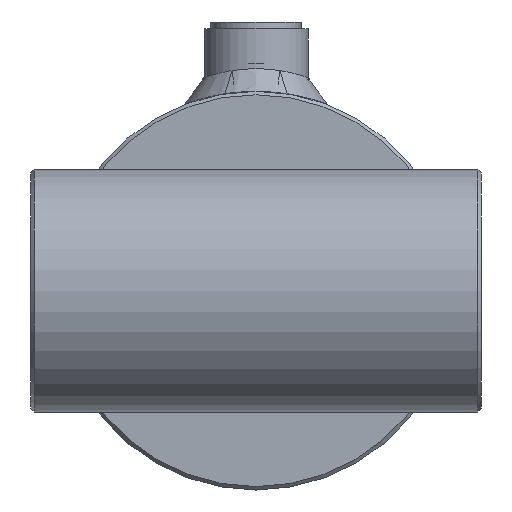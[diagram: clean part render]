
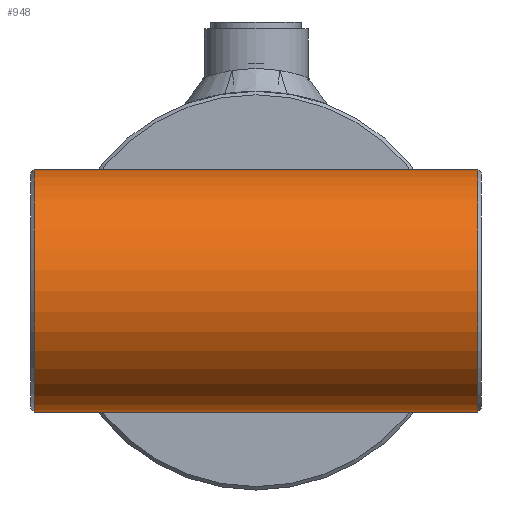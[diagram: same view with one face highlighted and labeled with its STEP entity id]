
A CAD part, left-side view. The second image highlights one B-rep face of the part: STEP entity #948.
In plain terms, the highlighted cylindrical face has radius 35 mm (diameter 70 mm), a full revolution.
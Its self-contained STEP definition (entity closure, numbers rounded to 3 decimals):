
#948 = ADVANCED_FACE( '', ( #1824, #1825 ), #1826, .T. );
#1824 = FACE_OUTER_BOUND( '', #4207, .T. );
#1825 = FACE_OUTER_BOUND( '', #4208, .T. );
#1826 = CYLINDRICAL_SURFACE( '', #4209, 35. );
#4207 = EDGE_LOOP( '', ( #10628 ) );
#4208 = EDGE_LOOP( '', ( #10629 ) );
#4209 = AXIS2_PLACEMENT_3D( '', #10630, #10631, #10632 );
#10628 = ORIENTED_EDGE( '', *, *, #12172, .T. );
#10629 = ORIENTED_EDGE( '', *, *, #12173, .T. );
#10630 = CARTESIAN_POINT( '', ( 0., -65., 0. ) );
#10631 = DIRECTION( '', ( 0., -1., 0. ) );
#10632 = DIRECTION( '', ( 0., 0., 1. ) );
#12172 = EDGE_CURVE( '', #13201, #13201, #13202, .F. );
#12173 = EDGE_CURVE( '', #13203, #13203, #13204, .T. );
#13201 = VERTEX_POINT( '', #15361 );
#13202 = CIRCLE( '', #15362, 35. );
#13203 = VERTEX_POINT( '', #15363 );
#13204 = CIRCLE( '', #15364, 35. );
#15361 = CARTESIAN_POINT( '', ( 0., 64., 35. ) );
#15362 = AXIS2_PLACEMENT_3D( '', #17557, #17558, #17559 );
#15363 = CARTESIAN_POINT( '', ( 0., -64., 35. ) );
#15364 = AXIS2_PLACEMENT_3D( '', #17560, #17561, #17562 );
#17557 = CARTESIAN_POINT( '', ( 0., 64., 0. ) );
#17558 = DIRECTION( '', ( 0., 1., 0. ) );
#17559 = DIRECTION( '', ( 0., 0., 1. ) );
#17560 = CARTESIAN_POINT( '', ( 0., -64., 0. ) );
#17561 = DIRECTION( '', ( 0., 1., 0. ) );
#17562 = DIRECTION( '', ( 0., 0., 1. ) );
